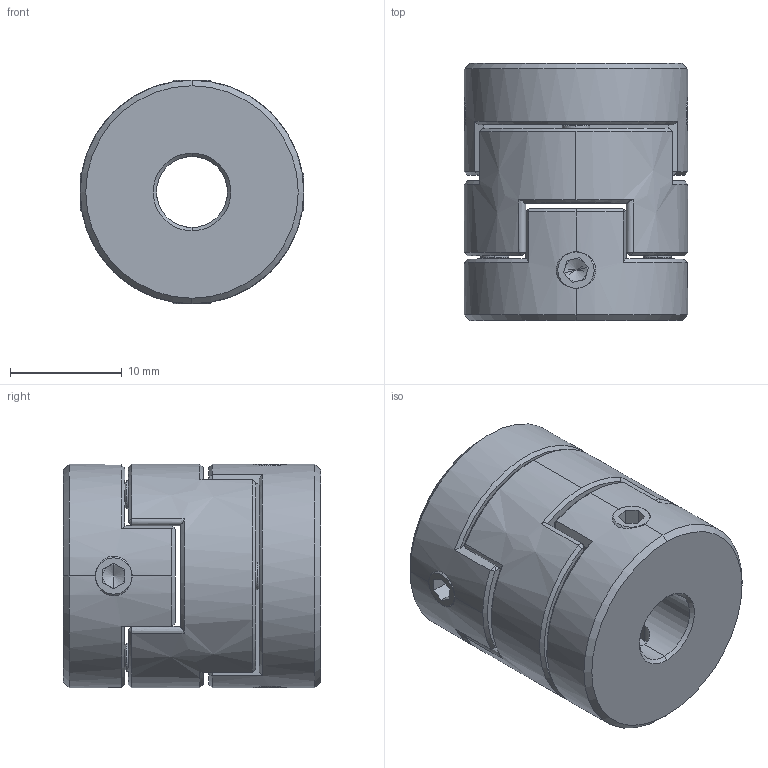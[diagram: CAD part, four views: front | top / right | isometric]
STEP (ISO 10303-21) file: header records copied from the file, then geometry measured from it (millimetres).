
FILE_DESCRIPTION (( 'STEP AP203' ), '1' );
FILE_NAME ('LZ-D-D20L23-6.35-6.35.STEP', '2021-10-30T01:45:15', ( '' ), ( '' ), 'SwSTEP 2.0', 'SolidWorks 2018', '' );
FILE_SCHEMA (( 'CONFIG_CONTROL_DESIGN' ));
Length unit declared in the file: millimetre
Products named in the file (1): LZ-D-D20L23-6.35-6.35
Bounding box: 20 x 23 x 20 mm (x, y, z)
Volume: 6112.7 mm3; surface area: 4117.8 mm2
Topology: 3 solids, 3 shells, 230 faces, 586 edges, 364 vertices
Faces by surface type: plane 116, cone 54, cylinder 34, bspline 26
Entity records: 9737 total; most frequent: CARTESIAN_POINT 4455, ORIENTED_EDGE 1156, DIRECTION 978, EDGE_CURVE 578, VERTEX_POINT 364, AXIS2_PLACEMENT_3D 357, VECTOR 264, LINE 264
